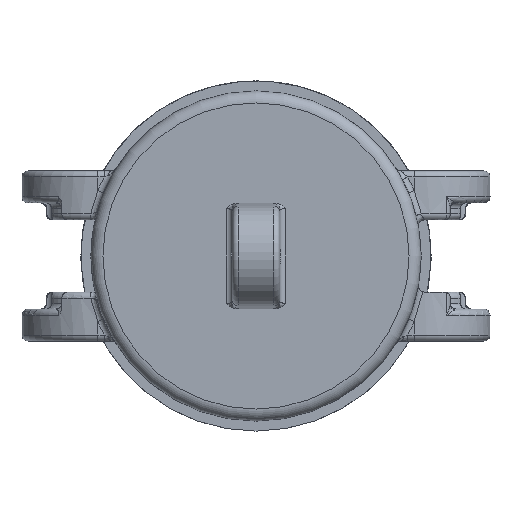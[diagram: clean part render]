
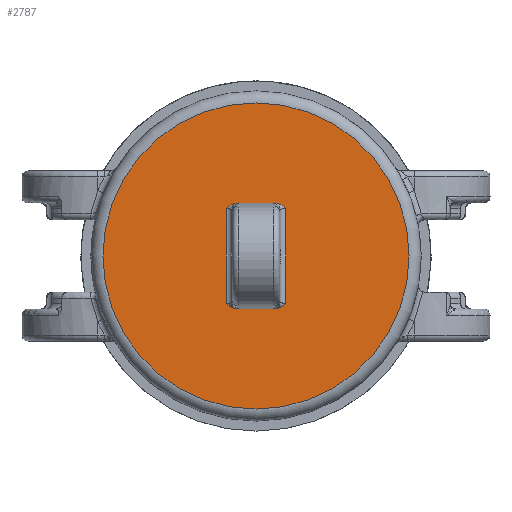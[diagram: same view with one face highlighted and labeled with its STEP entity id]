
A CAD part, left-side view. The second image highlights one B-rep face of the part: STEP entity #2787.
In plain terms, the highlighted planar face has unit normal (-1, 0, 0).
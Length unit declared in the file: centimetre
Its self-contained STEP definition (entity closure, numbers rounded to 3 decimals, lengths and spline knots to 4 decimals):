
#192=PLANE('',#3042);
#212=VECTOR('',#3158,1.);
#222=VECTOR('',#3219,1.);
#225=VECTOR('',#3225,1.);
#226=VECTOR('',#3228,1.);
#322=LINE('',#3798,#212);
#332=LINE('',#4282,#222);
#335=LINE('',#4287,#225);
#336=LINE('',#4289,#226);
#537=CIRCLE('',#3041,1.9431);
#603=VERTEX_POINT('',#3797);
#604=VERTEX_POINT('',#3799);
#611=VERTEX_POINT('',#3919);
#617=VERTEX_POINT('',#4032);
#619=VERTEX_POINT('',#4146);
#620=VERTEX_POINT('',#4157);
#622=VERTEX_POINT('',#4258);
#623=VERTEX_POINT('',#4269);
#797=VERTEX_POINT('',#8023);
#870=B_SPLINE_CURVE_WITH_KNOTS('',3,(#3909,#3910,#3911,#3912,#3913,#3914,
#3915,#3916,#3917,#3918),.UNSPECIFIED.,.F.,.U.,(4,2,2,2,4),(0.,0.0431,
0.0998,0.1662,0.1668),.UNSPECIFIED.);
#871=B_SPLINE_CURVE_WITH_KNOTS('',3,(#4033,#4034,#4035,#4036,#4037,#4038,
#4039,#4040,#4041,#4042),.UNSPECIFIED.,.F.,.U.,(4,2,2,2,4),(-0.0005,
0.,0.0548,0.1017,0.1373),.UNSPECIFIED.);
#872=B_SPLINE_CURVE_WITH_KNOTS('',3,(#4147,#4148,#4149,#4150,#4151,#4152,
#4153,#4154,#4155,#4156),.UNSPECIFIED.,.F.,.U.,(4,2,2,2,4),(-0.0005,
0.,0.0548,0.1017,0.1373),.UNSPECIFIED.);
#873=B_SPLINE_CURVE_WITH_KNOTS('',3,(#4259,#4260,#4261,#4262,#4263,#4264,
#4265,#4266,#4267,#4268),.UNSPECIFIED.,.F.,.U.,(4,2,2,2,4),(0.,0.0431,
0.0998,0.1662,0.1668),.UNSPECIFIED.);
#995=EDGE_CURVE('',#603,#604,#322,.T.);
#1004=EDGE_CURVE('',#604,#611,#870,.F.);
#1014=EDGE_CURVE('',#617,#603,#871,.F.);
#1019=EDGE_CURVE('',#619,#620,#872,.F.);
#1023=EDGE_CURVE('',#622,#623,#873,.F.);
#1030=EDGE_CURVE('',#619,#611,#332,.T.);
#1033=EDGE_CURVE('',#617,#623,#335,.T.);
#1034=EDGE_CURVE('',#620,#622,#336,.T.);
#1278=EDGE_CURVE('',#797,#797,#537,.T.);
#1913=ORIENTED_EDGE('',*,*,#1014,.F.);
#1914=ORIENTED_EDGE('',*,*,#1033,.T.);
#1915=ORIENTED_EDGE('',*,*,#1023,.F.);
#1916=ORIENTED_EDGE('',*,*,#1034,.F.);
#1917=ORIENTED_EDGE('',*,*,#1019,.F.);
#1918=ORIENTED_EDGE('',*,*,#1030,.T.);
#1919=ORIENTED_EDGE('',*,*,#1004,.F.);
#1920=ORIENTED_EDGE('',*,*,#995,.F.);
#1921=ORIENTED_EDGE('',*,*,#1278,.F.);
#2401=EDGE_LOOP('',(#1913,#1914,#1915,#1916,#1917,#1918,#1919,#1920));
#2402=EDGE_LOOP('',(#1921));
#2603=FACE_BOUND('',#2401,.T.);
#2604=FACE_BOUND('',#2402,.T.);
#2787=ADVANCED_FACE('',(#2603,#2604),#192,.F.);
#3041=AXIS2_PLACEMENT_3D('',#8022,#3546,#3547);
#3042=AXIS2_PLACEMENT_3D('',#8024,#3548,$);
#3158=DIRECTION('',(0.,0.,1.));
#3219=DIRECTION('',(0.,-1.,0.));
#3225=DIRECTION('',(0.,1.,0.));
#3228=DIRECTION('',(0.,0.,-1.));
#3546=DIRECTION('',(1.,0.,0.));
#3547=DIRECTION('',(0.,0.,1.943));
#3548=DIRECTION('',(1.,0.,0.));
#3797=CARTESIAN_POINT('',(-3.3782,-0.3785,-0.5987));
#3798=CARTESIAN_POINT('',(-3.3782,-0.3785,0.));
#3799=CARTESIAN_POINT('',(-3.3782,-0.3785,0.5987));
#3909=CARTESIAN_POINT('',(-3.3782,-0.2505,0.6685));
#3910=CARTESIAN_POINT('',(-3.3782,-0.2649,0.6685));
#3911=CARTESIAN_POINT('',(-3.3782,-0.2791,0.6657));
#3912=CARTESIAN_POINT('',(-3.3782,-0.3104,0.6541));
#3913=CARTESIAN_POINT('',(-3.3782,-0.3256,0.6444));
#3914=CARTESIAN_POINT('',(-3.3782,-0.3523,0.6242));
#3915=CARTESIAN_POINT('',(-3.3782,-0.3651,0.612));
#3916=CARTESIAN_POINT('',(-3.3782,-0.3782,0.599));
#3917=CARTESIAN_POINT('',(-3.3782,-0.3783,0.5988));
#3918=CARTESIAN_POINT('',(-3.3782,-0.3785,0.5987));
#3919=CARTESIAN_POINT('',(-3.3782,-0.2505,0.6685));
#4032=CARTESIAN_POINT('',(-3.3782,-0.2505,-0.6685));
#4033=CARTESIAN_POINT('',(-3.3782,-0.3785,-0.5987));
#4034=CARTESIAN_POINT('',(-3.3782,-0.3783,-0.5988));
#4035=CARTESIAN_POINT('',(-3.3782,-0.3782,-0.599));
#4036=CARTESIAN_POINT('',(-3.3782,-0.3651,-0.612));
#4037=CARTESIAN_POINT('',(-3.3782,-0.3523,-0.6242));
#4038=CARTESIAN_POINT('',(-3.3782,-0.3256,-0.6444));
#4039=CARTESIAN_POINT('',(-3.3782,-0.3104,-0.6541));
#4040=CARTESIAN_POINT('',(-3.3782,-0.2791,-0.6657));
#4041=CARTESIAN_POINT('',(-3.3782,-0.2649,-0.6685));
#4042=CARTESIAN_POINT('',(-3.3782,-0.2505,-0.6685));
#4146=CARTESIAN_POINT('',(-3.3782,0.2505,0.6685));
#4147=CARTESIAN_POINT('',(-3.3782,0.3785,0.5987));
#4148=CARTESIAN_POINT('',(-3.3782,0.3783,0.5988));
#4149=CARTESIAN_POINT('',(-3.3782,0.3782,0.599));
#4150=CARTESIAN_POINT('',(-3.3782,0.3651,0.612));
#4151=CARTESIAN_POINT('',(-3.3782,0.3523,0.6242));
#4152=CARTESIAN_POINT('',(-3.3782,0.3256,0.6444));
#4153=CARTESIAN_POINT('',(-3.3782,0.3104,0.6541));
#4154=CARTESIAN_POINT('',(-3.3782,0.2791,0.6657));
#4155=CARTESIAN_POINT('',(-3.3782,0.2649,0.6685));
#4156=CARTESIAN_POINT('',(-3.3782,0.2505,0.6685));
#4157=CARTESIAN_POINT('',(-3.3782,0.3785,0.5987));
#4258=CARTESIAN_POINT('',(-3.3782,0.3785,-0.5987));
#4259=CARTESIAN_POINT('',(-3.3782,0.2505,-0.6685));
#4260=CARTESIAN_POINT('',(-3.3782,0.2649,-0.6685));
#4261=CARTESIAN_POINT('',(-3.3782,0.2791,-0.6657));
#4262=CARTESIAN_POINT('',(-3.3782,0.3104,-0.6541));
#4263=CARTESIAN_POINT('',(-3.3782,0.3256,-0.6444));
#4264=CARTESIAN_POINT('',(-3.3782,0.3523,-0.6242));
#4265=CARTESIAN_POINT('',(-3.3782,0.3651,-0.612));
#4266=CARTESIAN_POINT('',(-3.3782,0.3782,-0.599));
#4267=CARTESIAN_POINT('',(-3.3782,0.3783,-0.5988));
#4268=CARTESIAN_POINT('',(-3.3782,0.3785,-0.5987));
#4269=CARTESIAN_POINT('',(-3.3782,0.2505,-0.6685));
#4282=CARTESIAN_POINT('',(-3.3782,-0.1511,0.6685));
#4287=CARTESIAN_POINT('',(-3.3782,-0.1511,-0.6685));
#4289=CARTESIAN_POINT('',(-3.3782,0.3785,0.));
#8022=CARTESIAN_POINT('',(-3.3782,0.,0.));
#8023=CARTESIAN_POINT('',(-3.3782,0.,-1.9431));
#8024=CARTESIAN_POINT('',(-3.3782,0.,0.));
